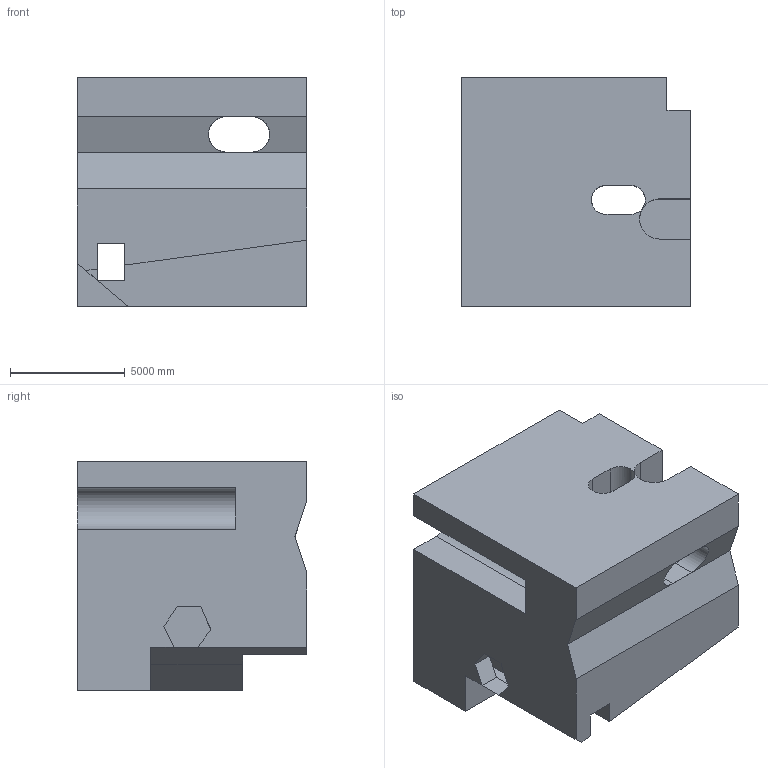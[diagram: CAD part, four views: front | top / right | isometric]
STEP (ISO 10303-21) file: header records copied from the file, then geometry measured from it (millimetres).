
FILE_DESCRIPTION (( 'STEP AP203' ), '1' );
FILE_NAME ('380.STEP', '2022-09-07T15:25:34', ( 'user' ), ( '' ), 'SwSTEP 2.0', 'SolidWorks 2021', '' );
FILE_SCHEMA (( 'CONFIG_CONTROL_DESIGN' ));
Length unit declared in the file: centimetre
Products named in the file (1): 380
Bounding box: 10000 x 10000 x 10000 mm (x, y, z)
Volume: 786040270272.8 mm3; surface area: 768268239.8 mm2
Topology: 1 solids, 1 shells, 56 faces, 177 edges, 118 vertices
Faces by surface type: plane 46, cylinder 10
Entity records: 2870 total; most frequent: CARTESIAN_POINT 1202, ORIENTED_EDGE 354, DIRECTION 301, EDGE_CURVE 177, LINE 147, VECTOR 147, VERTEX_POINT 118, AXIS2_PLACEMENT_3D 77
